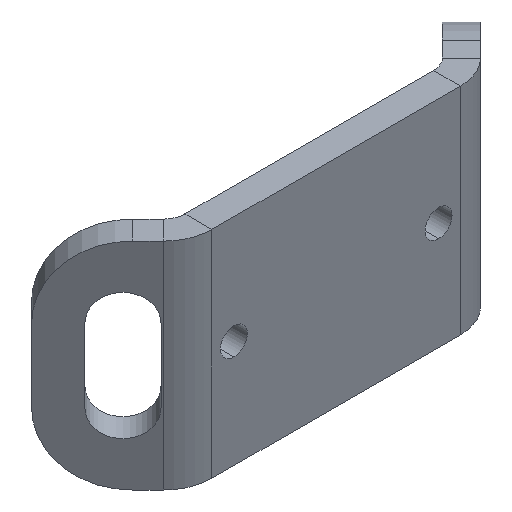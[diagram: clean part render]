
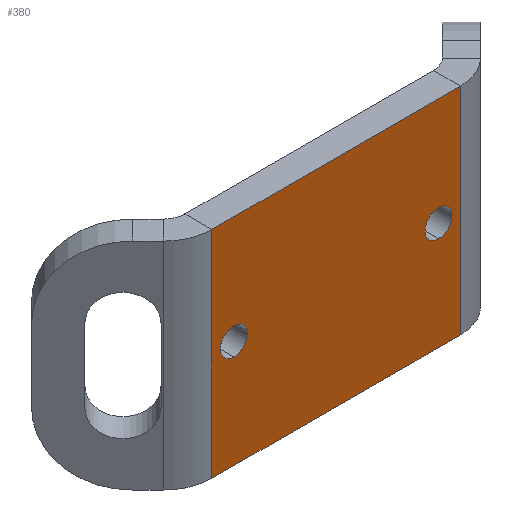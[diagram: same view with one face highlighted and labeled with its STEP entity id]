
A CAD part, isometric view. The second image highlights one B-rep face of the part: STEP entity #380.
In plain terms, the highlighted planar face has unit normal (0, -1, 0).
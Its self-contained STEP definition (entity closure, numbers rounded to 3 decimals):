
#23 = AXIS2_PLACEMENT_3D ( 'NONE', #433, #1072, #361 ) ;
#25 = ORIENTED_EDGE ( 'NONE', *, *, #1159, .T. ) ;
#46 = CIRCLE ( 'NONE', #256, 5. ) ;
#49 = FACE_BOUND ( 'NONE', #132, .T. ) ;
#53 = ORIENTED_EDGE ( 'NONE', *, *, #228, .T. ) ;
#61 = FACE_BOUND ( 'NONE', #928, .T. ) ;
#67 = CARTESIAN_POINT ( 'NONE',  ( 51.5, -5., 40. ) ) ;
#88 = VERTEX_POINT ( 'NONE', #910 ) ;
#113 = ORIENTED_EDGE ( 'NONE', *, *, #302, .T. ) ;
#118 = DIRECTION ( 'NONE',  ( 0., 0., 1. ) ) ;
#132 = EDGE_LOOP ( 'NONE', ( #1106, #53 ) ) ;
#154 = VECTOR ( 'NONE', #1168, 1000. ) ;
#156 = DIRECTION ( 'NONE',  ( -1., 0., 0. ) ) ;
#188 = CARTESIAN_POINT ( 'NONE',  ( -38., -5., 0. ) ) ;
#190 = ORIENTED_EDGE ( 'NONE', *, *, #1100, .T. ) ;
#193 = AXIS2_PLACEMENT_3D ( 'NONE', #1053, #768, #331 ) ;
#194 = DIRECTION ( 'NONE',  ( 0., 0., -1. ) ) ;
#214 = EDGE_CURVE ( 'NONE', #837, #88, #346, .T. ) ;
#228 = EDGE_CURVE ( 'NONE', #88, #837, #543, .T. ) ;
#256 = AXIS2_PLACEMENT_3D ( 'NONE', #888, #439, #635 ) ;
#282 = LINE ( 'NONE', #373, #1111 ) ;
#295 = DIRECTION ( 'NONE',  ( 0., 1., 0. ) ) ;
#302 = EDGE_CURVE ( 'NONE', #365, #779, #282, .T. ) ;
#305 = CARTESIAN_POINT ( 'NONE',  ( 46.115, -5., -40. ) ) ;
#314 = VECTOR ( 'NONE', #156, 1000. ) ;
#331 = DIRECTION ( 'NONE',  ( 1., 0., 0. ) ) ;
#346 = CIRCLE ( 'NONE', #1013, 5. ) ;
#361 = DIRECTION ( 'NONE',  ( 0., 0., 1. ) ) ;
#365 = VERTEX_POINT ( 'NONE', #305 ) ;
#373 = CARTESIAN_POINT ( 'NONE',  ( 46.115, -5., 40. ) ) ;
#380 = ADVANCED_FACE ( 'NONE', ( #49, #61, #871 ), #674, .T. ) ;
#433 = CARTESIAN_POINT ( 'NONE',  ( 38., -5., 0. ) ) ;
#439 = DIRECTION ( 'NONE',  ( 0., 1., 0. ) ) ;
#450 = ORIENTED_EDGE ( 'NONE', *, *, #1026, .T. ) ;
#473 = CARTESIAN_POINT ( 'NONE',  ( -46.115, -5., -40. ) ) ;
#481 = CARTESIAN_POINT ( 'NONE',  ( -38., -5., 0. ) ) ;
#495 = DIRECTION ( 'NONE',  ( 0., 0., 1. ) ) ;
#497 = VERTEX_POINT ( 'NONE', #656 ) ;
#543 = CIRCLE ( 'NONE', #897, 5. ) ;
#599 = EDGE_LOOP ( 'NONE', ( #450, #190, #692, #113 ) ) ;
#618 = CARTESIAN_POINT ( 'NONE',  ( -38., -5., 5. ) ) ;
#635 = DIRECTION ( 'NONE',  ( 0., 0., 1. ) ) ;
#648 = VERTEX_POINT ( 'NONE', #1105 ) ;
#653 = ORIENTED_EDGE ( 'NONE', *, *, #1027, .T. ) ;
#656 = CARTESIAN_POINT ( 'NONE',  ( 38., -5., 5. ) ) ;
#663 = CIRCLE ( 'NONE', #23, 5. ) ;
#674 = PLANE ( 'NONE',  #193 ) ;
#686 = CARTESIAN_POINT ( 'NONE',  ( 46.115, -5., 40. ) ) ;
#692 = ORIENTED_EDGE ( 'NONE', *, *, #1155, .F. ) ;
#768 = DIRECTION ( 'NONE',  ( 0., -1., 0. ) ) ;
#779 = VERTEX_POINT ( 'NONE', #686 ) ;
#793 = VERTEX_POINT ( 'NONE', #1063 ) ;
#834 = DIRECTION ( 'NONE',  ( 0., 1., 0. ) ) ;
#837 = VERTEX_POINT ( 'NONE', #618 ) ;
#871 = FACE_OUTER_BOUND ( 'NONE', #599, .T. ) ;
#881 = LINE ( 'NONE', #67, #154 ) ;
#888 = CARTESIAN_POINT ( 'NONE',  ( 38., -5., 0. ) ) ;
#897 = AXIS2_PLACEMENT_3D ( 'NONE', #188, #834, #495 ) ;
#910 = CARTESIAN_POINT ( 'NONE',  ( -38., -5., -5. ) ) ;
#913 = CARTESIAN_POINT ( 'NONE',  ( 51.5, -5., -40. ) ) ;
#928 = EDGE_LOOP ( 'NONE', ( #25, #653 ) ) ;
#1007 = LINE ( 'NONE', #473, #1041 ) ;
#1013 = AXIS2_PLACEMENT_3D ( 'NONE', #481, #295, #1016 ) ;
#1016 = DIRECTION ( 'NONE',  ( 0., 0., 1. ) ) ;
#1026 = EDGE_CURVE ( 'NONE', #779, #793, #881, .T. ) ;
#1027 = EDGE_CURVE ( 'NONE', #648, #497, #663, .T. ) ;
#1041 = VECTOR ( 'NONE', #194, 1000. ) ;
#1053 = CARTESIAN_POINT ( 'NONE',  ( 51.5, -5., 40. ) ) ;
#1063 = CARTESIAN_POINT ( 'NONE',  ( -46.115, -5., 40. ) ) ;
#1072 = DIRECTION ( 'NONE',  ( 0., 1., 0. ) ) ;
#1091 = LINE ( 'NONE', #913, #314 ) ;
#1100 = EDGE_CURVE ( 'NONE', #793, #1188, #1007, .T. ) ;
#1105 = CARTESIAN_POINT ( 'NONE',  ( 38., -5., -5. ) ) ;
#1106 = ORIENTED_EDGE ( 'NONE', *, *, #214, .T. ) ;
#1111 = VECTOR ( 'NONE', #118, 1000. ) ;
#1155 = EDGE_CURVE ( 'NONE', #365, #1188, #1091, .T. ) ;
#1159 = EDGE_CURVE ( 'NONE', #497, #648, #46, .T. ) ;
#1168 = DIRECTION ( 'NONE',  ( -1., 0., 0. ) ) ;
#1188 = VERTEX_POINT ( 'NONE', #1191 ) ;
#1191 = CARTESIAN_POINT ( 'NONE',  ( -46.115, -5., -40. ) ) ;
